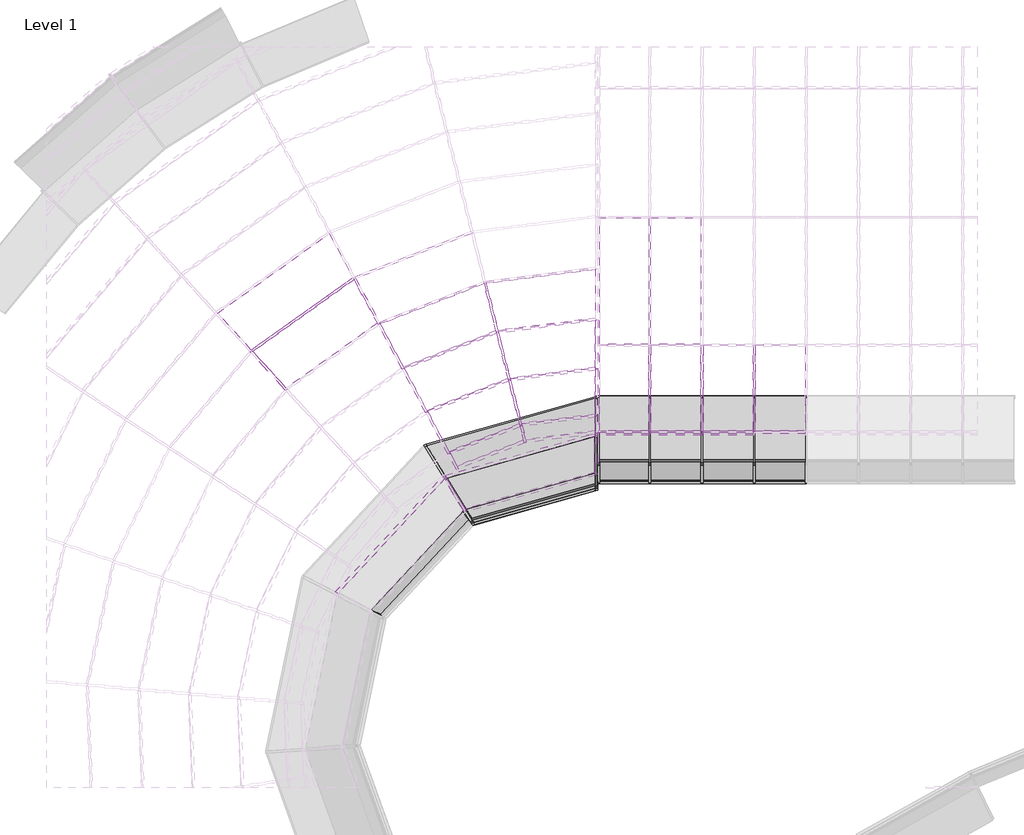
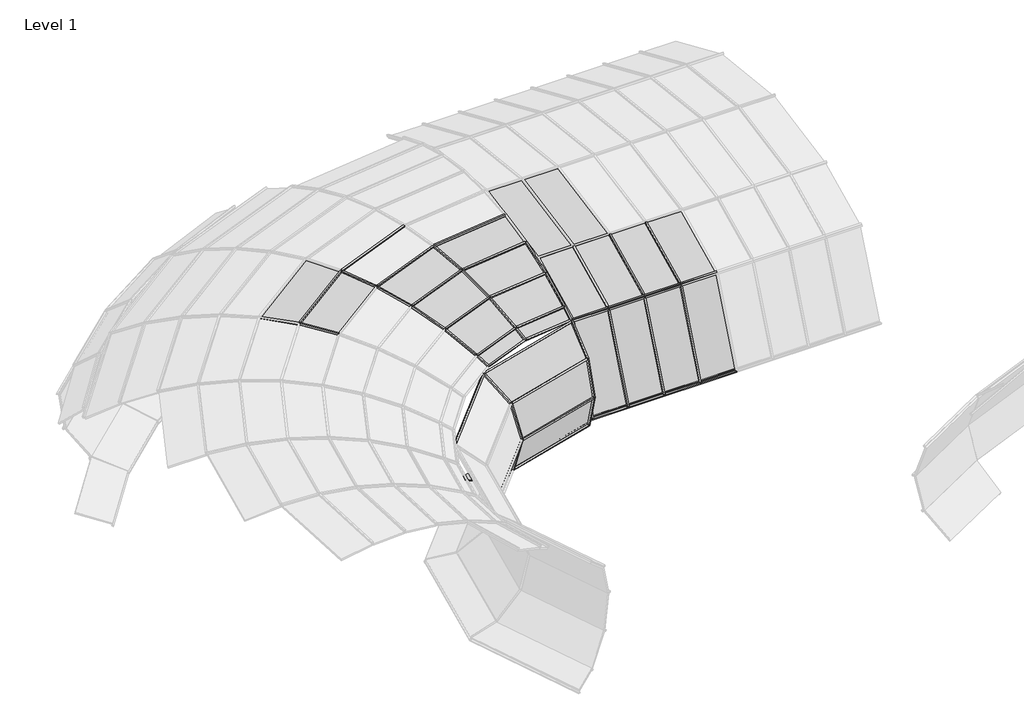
# One storey, part 15 of 23: 68 members, 30 plates.
"""IFC4 building model written with IfcOpenShell, lengths in millimetres."""

from ifc_helpers import new_model, si_unit, origin, place, context, project, spatial, transform, mapped, element, save
from components import member_c876edb5, member_40c6cd9d, member_782630c7, member_c2ddcf79, member_398e5ff5, member_398607d0, member_5099ef51, member_5ccaa950, member_a32a9cac, member_ff149431, member_8174f0e4, member_f9960f3d, member_231912ba, member_602ccce8, member_4609ab2d, member_513a4f72, member_c8b9029b, member_4f4d7b95, member_68981e21, member_3e1f1dd8, member_0cd36c09, member_d0a40a1c, member_ff9adfd2, member_8c9da58c, member_391bee44, member_01ebdf2a, member_d6b8231b, member_0f8f75f6, member_42213d33, member_14e241b9, member_5f010dbd, member_0934fb4d, member_48ec9f95, member_a14fa40f, member_7b8779ad, member_ae0b3619, member_4a9ed0f7, member_e2c9c6a0, member_25f397f4, member_9fdc8c74, system_panel_glazed_4989902e, system_panel_glazed_6854fac0, system_panel_glazed_c0d17033, system_panel_glazed_fa19e975, system_panel_glazed_51f493bd, system_panel_glazed_6e806f8e, system_panel_glazed_a1f64e1d, system_panel_glazed_6ab21abb, system_panel_glazed_3957fabc, system_panel_glazed_7bf4cd1b, system_panel_glazed_9f229a92, system_panel_glazed_17b64d9f, system_panel_glazed_a07c5774, system_panel_glazed_af8a38da, system_panel_glazed_4fd85c75, system_panel_glazed_840234e5, system_panel_glazed_1256fb3b, system_panel_glazed_5d54433e, system_panel_glazed_de823024, system_panel_glazed_a11d2942, system_panel_glazed_66eabb40, system_panel_glazed_688557e5, system_panel_glazed_15cacd98, system_panel_glazed_2b717ddf

model = new_model("IFC4")

# Units and contexts
model_context = context("Model", 3, world=origin())
ifc_project = project(units=[si_unit("LENGTHUNIT", "METRE", prefix="MILLI")], contexts=[model_context])

# Site, building, storey
site = spatial("IfcSite", under=ifc_project)
building = spatial("IfcBuilding", under=site)
storey = spatial("IfcBuildingStorey", under=building, Name="Level 1", Elevation=0.0)

# Members
placement = place(None, origin())
member_shape = member_c876edb5(model_context)
element("IfcMember", 1, ObjectType="Rectangular Mullion : 1\" Square", at=placement, inside=storey, context=model_context, shape_type="MappedRepresentation", body=[
    mapped(member_shape, transform((-12174.6051838, 2868.8876904, 2676.0506073), x_axis=(0.34938601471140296, -0.8972882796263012, -0.26982059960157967), y_axis=(0.09790269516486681, -0.2514323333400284, 0.962910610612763), z_axis=(-0.9318500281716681, -0.3628436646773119, 0.0))),
])
member_2_shape = member_40c6cd9d(model_context)
element("IfcMember", 2, ObjectType="Rectangular Mullion : 1\" Square", at=placement, inside=storey, context=model_context, shape_type="MappedRepresentation", body=[
    mapped(member_2_shape, transform((-10931.7449467, 2736.2969259, 2475.91846), x_axis=(0.11409837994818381, -0.9171267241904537, -0.3819163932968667), y_axis=(0.04715017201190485, -0.37899471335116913, 0.9241968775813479), z_axis=(-0.9923499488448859, -0.12345679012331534, 0.0))),
])
member_3_shape = member_782630c7(model_context)
element("IfcMember", 3, ObjectType="Rectangular Mullion : 1\" Square", at=placement, inside=storey, context=model_context, shape_type="MappedRepresentation", body=[
    mapped(member_3_shape, transform((-11901.0305804, 2362.2159821, 2475.91846), x_axis=(0.3353389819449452, -0.8612128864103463, -0.3819163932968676), y_axis=(0.13857594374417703, -0.35588880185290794, 0.9241968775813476), z_axis=(-0.9318500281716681, -0.362843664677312, 0.0))),
])
member_4_shape = member_c2ddcf79(model_context)
element("IfcMember", 4, ObjectType="Rectangular Mullion : 1\" Square", at=placement, inside=storey, context=model_context, shape_type="MappedRepresentation", body=[
    mapped(member_4_shape, transform((-10797.4988883, 2205.1103725, 2208.6526723), x_axis=(0.10770495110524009, -0.8657361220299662, -0.48877460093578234), y_axis=(0.060342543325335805, -0.48503545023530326, 0.8724101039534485), z_axis=(-0.9923499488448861, -0.12345679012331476, 0.0))),
])
member_5_shape = member_398e5ff5(model_context)
element("IfcMember", 5, ObjectType="Rectangular Mullion : 1\" Square", at=placement, inside=storey, context=model_context, shape_type="MappedRepresentation", body=[
    mapped(member_5_shape, transform((-11640.7229512, 1880.1152697, 2208.6526723), x_axis=(0.31654847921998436, -0.8129553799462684, -0.4887746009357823), y_axis=(0.17734876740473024, -0.4554646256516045, 0.8724101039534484), z_axis=(-0.9318500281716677, -0.3628436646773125, 0.0))),
])
member_6_shape = member_398607d0(model_context)
element("IfcMember", 6, ObjectType="Rectangular Mullion : 1\" Square", at=placement, inside=storey, context=model_context, shape_type="MappedRepresentation", body=[
    mapped(member_6_shape, transform((-12745.8541056, 3926.8647965, 2864.5209769), x_axis=(0.3626062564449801, -0.9312403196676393, -0.03616863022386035), y_axis=(0.013123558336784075, -0.0337037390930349, 0.9993457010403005), z_axis=(-0.9318500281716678, -0.362843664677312, 0.0))),
])
element("IfcMember", 7, ObjectType="Rectangular Mullion : 1\" Square", at=placement, inside=storey, context=model_context, shape_type="MappedRepresentation", body=[
    mapped(member_6_shape, transform((-13951.5584731, 3071.9900702, 2864.5209769), x_axis=(0.5797297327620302, -0.8140056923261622, -0.03616863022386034), y_axis=(0.020981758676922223, -0.029460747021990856, 0.9993457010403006), z_axis=(-0.8145386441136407, -0.580109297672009, 0.0))),
])
member_7_shape = member_5099ef51(model_context)
element("IfcMember", 8, ObjectType="Rectangular Mullion : 1\" Square", at=placement, inside=storey, context=model_context, shape_type="MappedRepresentation", body=[
    mapped(member_7_shape, transform((-11218.7560629, 3871.9462509, 2806.2019711), x_axis=(0.12198324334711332, -0.9805055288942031, -0.15404218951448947), y_axis=(0.019017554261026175, -0.1528637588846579, 0.9880642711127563), z_axis=(-0.9923499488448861, -0.12345679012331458, 0.0))),
])
member_8_shape = member_5ccaa950(model_context)
element("IfcMember", 9, ObjectType="Rectangular Mullion : 1\" Square", at=placement, inside=storey, context=model_context, shape_type="MappedRepresentation", body=[
    mapped(member_8_shape, transform((-12457.5548024, 3392.9223227, 2806.2019711), x_axis=(0.35851286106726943, -0.9207277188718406, -0.15404218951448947), y_axis=(0.05589323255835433, -0.14354421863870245, 0.9880642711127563), z_axis=(-0.9318500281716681, -0.3628436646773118, 0.0))),
])
member_9_shape = member_a32a9cac(model_context)
element("IfcMember", 10, ObjectType="Rectangular Mullion : 1\" Square", at=placement, inside=storey, context=model_context, shape_type="MappedRepresentation", body=[
    mapped(member_9_shape, transform((-11072.8330596, 3294.5562098, 2676.0506073), x_axis=(0.11887785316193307, -0.9555442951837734, -0.26982059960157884), y_axis=(0.03331118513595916, -0.2677564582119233, 0.9629106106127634), z_axis=(-0.9923499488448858, -0.12345679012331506, 0.0))),
])
member_10_shape = member_ff149431(model_context)
element("IfcMember", 11, ObjectType="Rectangular Mullion : 1\" Square", at=placement, inside=storey, context=model_context, shape_type="MappedRepresentation", body=[
    mapped(member_10_shape, transform((-10746.8652958, 2004.7627139, 2085.6089632), x_axis=(0.10586239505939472, -0.8509255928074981, -0.5145082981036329), y_axis=(0.06351954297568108, -0.5105722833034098, 0.8574853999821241), z_axis=(-0.9923499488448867, -0.12345679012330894, 0.0))),
])
member_11_shape = member_8174f0e4(model_context)
element("IfcMember", 12, ObjectType="Rectangular Mullion : 1\" Square", at=placement, inside=storey, context=model_context, shape_type="MappedRepresentation", body=[
    mapped(member_11_shape, transform((-11542.5427099, 1698.2813201, 2085.6089632), x_axis=(0.3111331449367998, -0.7990477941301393, -0.5145082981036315), y_axis=(0.18668607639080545, -0.47944457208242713, 0.8574853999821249), z_axis=(-0.9318500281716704, -0.362843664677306, 0.0))),
])
member_12_shape = member_f9960f3d(model_context)
element("IfcMember", 13, ObjectType="Rectangular Mullion : 1\" Square", at=placement, inside=storey, context=model_context, shape_type="MappedRepresentation", body=[
    mapped(member_12_shape, transform((-11356.5599234, 1047.8979662, 1116.1918244), x_axis=(0.007390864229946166, -0.026347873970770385, -0.9996255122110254), y_axis=(0.26998484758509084, -0.962475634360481, 0.02736485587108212), z_axis=(-0.9628362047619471, -0.27008599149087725, 0.0))),
])
member_13_shape = member_231912ba(model_context)
element("IfcMember", 14, ObjectType="Rectangular Mullion : 1\" Square", at=placement, inside=storey, context=model_context, shape_type="MappedRepresentation", body=[
    mapped(member_13_shape, transform((-11921.9234749, 1976.3418904, 0.0), x_axis=(-0.2624096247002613, 0.9354705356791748, -0.23671938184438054), y_axis=(0.0639345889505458, -0.2279219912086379, -0.9715780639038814), z_axis=(-0.9628362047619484, -0.27008599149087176, 0.0))),
])
member_14_shape = member_602ccce8(model_context)
element("IfcMember", 15, ObjectType="Rectangular Mullion : 1\" Square", at=placement, inside=storey, context=model_context, shape_type="MappedRepresentation", body=[
    mapped(member_14_shape, transform((-11437.3436732, 1180.5615973, 526.7119632), x_axis=(-0.1426560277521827, 0.5085579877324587, -0.8491278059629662), y_axis=(0.22933752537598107, -0.8175709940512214, -0.5281874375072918), z_axis=(-0.962836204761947, -0.27008599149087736, 0.0))),
])
member_15_shape = member_4609ab2d(model_context)
element("IfcMember", 16, ObjectType="Rectangular Mullion : 1\" Square", at=placement, inside=storey, context=model_context, shape_type="MappedRepresentation", body=[
    mapped(member_15_shape, transform((-11670.4149391, 1563.312838, 113.4427618), x_axis=(-0.24330787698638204, 0.8673742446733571, -0.4341234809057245), y_axis=(0.11725067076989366, -0.4179898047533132, -0.9008533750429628), z_axis=(-0.962836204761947, -0.27008599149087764, 0.0))),
])
member_16_shape = member_513a4f72(model_context)
element("IfcMember", 17, ObjectType="Rectangular Mullion : 1\" Square", at=placement, inside=storey, context=model_context, shape_type="MappedRepresentation", body=[
    mapped(member_16_shape, transform((-11453.4513691, 1207.0137667, 1696.6281859), x_axis=(0.1547369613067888, -0.5516256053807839, -0.8196131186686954), y_axis=(0.2213660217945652, -0.78915318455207, 0.572917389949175), z_axis=(-0.9628362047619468, -0.27008599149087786, 0.0))),
])
member_17_shape = member_c8b9029b(model_context)
element("IfcMember", 18, ObjectType="Rectangular Mullion : 1\" Square", at=placement, inside=storey, context=model_context, shape_type="MappedRepresentation", body=[
    mapped(member_17_shape, transform((-11718.4562886, 1595.1846124, 2085.6089632), x_axis=(-0.5543774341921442, 0.5168178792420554, 0.652353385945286), y_axis=(0.47716435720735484, -0.4448360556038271, 0.7579149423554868), z_axis=(0.6818943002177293, 0.7314507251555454, 0.0))),
])
member_18_shape = member_4f4d7b95(model_context)
element("IfcMember", 19, ObjectType="Rectangular Mullion : 1\" Square", at=placement, inside=storey, context=model_context, shape_type="MappedRepresentation", body=[
    mapped(member_18_shape, transform((-9937.406021, 2101.6487012, 2085.6089632), x_axis=(-0.2047022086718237, 0.7297479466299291, 0.652353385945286), y_axis=(0.17619151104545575, -0.628109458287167, 0.7579149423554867), z_axis=(0.9628362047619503, 0.2700859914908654, 0.0))),
])
member_19_shape = member_68981e21(model_context)
element("IfcMember", 20, ObjectType="Rectangular Mullion : 1\" Square", at=placement, inside=storey, context=model_context, shape_type="MappedRepresentation", body=[
    mapped(member_19_shape, transform((-9303.3499814, 2539.8807303, 0.0), x_axis=(0.0, 0.8307182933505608, -0.5566930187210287), y_axis=(0.0, -0.5566930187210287, -0.8307182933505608), z_axis=(-1.0, 0.0, 0.0))),
])
element("IfcMember", 21, ObjectType="Rectangular Mullion : 1\" Square", at=placement, inside=storey, context=model_context, shape_type="MappedRepresentation", body=[
    mapped(member_19_shape, transform((-8693.7499814, 2539.8807303, 0.0), x_axis=(0.0, 0.8307182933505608, -0.5566930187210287), y_axis=(0.0, -0.5566930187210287, -0.8307182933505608), z_axis=(-1.0, 0.0, 0.0))),
])
element("IfcMember", 22, ObjectType="Rectangular Mullion : 1\" Square", at=placement, inside=storey, context=model_context, shape_type="MappedRepresentation", body=[
    mapped(member_19_shape, transform((-8084.1499814, 2539.8807303, 0.0), x_axis=(0.0, 0.8307182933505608, -0.5566930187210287), y_axis=(0.0, -0.5566930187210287, -0.8307182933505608), z_axis=(-1.0, 0.0, 0.0))),
])
element("IfcMember", 23, ObjectType="Rectangular Mullion : 1\" Square", at=placement, inside=storey, context=model_context, shape_type="MappedRepresentation", body=[
    mapped(member_19_shape, transform((-9303.3499814, 2108.5088854, 2085.6089632), x_axis=(0.0, -0.9009025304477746, -0.4340214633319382), y_axis=(0.0, -0.4340214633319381, 0.9009025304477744), z_axis=(-1.0, 0.0, 0.0))),
])
element("IfcMember", 24, ObjectType="Rectangular Mullion : 1\" Square", at=placement, inside=storey, context=model_context, shape_type="MappedRepresentation", body=[
    mapped(member_19_shape, transform((-8693.7499814, 2108.5088854, 2085.6089632), x_axis=(0.0, -0.9009025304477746, -0.4340214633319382), y_axis=(0.0, -0.4340214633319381, 0.9009025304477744), z_axis=(-1.0, 0.0, 0.0))),
])
element("IfcMember", 25, ObjectType="Rectangular Mullion : 1\" Square", at=placement, inside=storey, context=model_context, shape_type="MappedRepresentation", body=[
    mapped(member_19_shape, transform((-8084.1499814, 2108.5088854, 2085.6089632), x_axis=(0.0, -0.9009025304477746, -0.4340214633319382), y_axis=(0.0, -0.4340214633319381, 0.9009025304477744), z_axis=(-1.0, 0.0, 0.0))),
])
member_20_shape = member_3e1f1dd8(model_context)
element("IfcMember", 26, ObjectType="Rectangular Mullion : 1\" Square", at=placement, inside=storey, context=model_context, shape_type="MappedRepresentation", body=[
    mapped(member_20_shape, transform((-9303.3499814, 1534.1192339, 673.9955146), x_axis=(0.0, 0.38018576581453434, -0.9249101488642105), y_axis=(0.0, -0.9249101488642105, -0.38018576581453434), z_axis=(-1.0, 0.0, 0.0))),
])
element("IfcMember", 27, ObjectType="Rectangular Mullion : 1\" Square", at=placement, inside=storey, context=model_context, shape_type="MappedRepresentation", body=[
    mapped(member_20_shape, transform((-8693.7499814, 1534.1192339, 673.9955146), x_axis=(0.0, 0.38018576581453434, -0.9249101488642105), y_axis=(0.0, -0.9249101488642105, -0.38018576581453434), z_axis=(-1.0, 0.0, 0.0))),
])
element("IfcMember", 28, ObjectType="Rectangular Mullion : 1\" Square", at=placement, inside=storey, context=model_context, shape_type="MappedRepresentation", body=[
    mapped(member_20_shape, transform((-8084.1499814, 1534.1192339, 673.9955146), x_axis=(0.0, 0.38018576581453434, -0.9249101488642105), y_axis=(0.0, -0.9249101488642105, -0.38018576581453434), z_axis=(-1.0, 0.0, 0.0))),
])
element("IfcMember", 29, ObjectType="Rectangular Mullion : 1\" Square", at=placement, inside=storey, context=model_context, shape_type="MappedRepresentation", body=[
    mapped(member_20_shape, transform((-9912.9499814, 1534.1192339, 673.9955146), x_axis=(0.0, 0.38018576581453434, -0.9249101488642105), y_axis=(0.0, -0.9249101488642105, -0.38018576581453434), z_axis=(-1.0, 0.0, 0.0))),
])
element("IfcMember", 30, ObjectType="Rectangular Mullion : 1\" Square", at=placement, inside=storey, context=model_context, shape_type="MappedRepresentation", body=[
    mapped(member_19_shape, transform((-9912.9499814, 2539.8807303, 0.0), x_axis=(0.0, 0.8307182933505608, -0.5566930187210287), y_axis=(0.0, -0.5566930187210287, -0.8307182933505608), z_axis=(-1.0, 0.0, 0.0))),
])
element("IfcMember", 31, ObjectType="Rectangular Mullion : 1\" Square", at=placement, inside=storey, context=model_context, shape_type="MappedRepresentation", body=[
    mapped(member_19_shape, transform((-9912.9499814, 2108.5088854, 2085.6089632), x_axis=(0.0, -0.9009025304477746, -0.4340214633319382), y_axis=(0.0, -0.4340214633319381, 0.9009025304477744), z_axis=(-1.0, 0.0, 0.0))),
])
element("IfcMember", 32, ObjectType="Rectangular Mullion : 1\" Square", at=placement, inside=storey, context=model_context, shape_type="MappedRepresentation", body=[
    mapped(member_19_shape, transform((-8693.7499814, 2108.5088854, 2085.6089632), x_axis=(0.0, 0.37689609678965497, 0.9262555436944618), y_axis=(0.0, -0.9262555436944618, 0.37689609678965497), z_axis=(1.0, 0.0, 0.0))),
])
element("IfcMember", 33, ObjectType="Rectangular Mullion : 1\" Square", at=placement, inside=storey, context=model_context, shape_type="MappedRepresentation", body=[
    mapped(member_19_shape, transform((-8084.1499814, 2108.5088854, 2085.6089632), x_axis=(0.0, 0.37689609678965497, 0.9262555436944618), y_axis=(0.0, -0.9262555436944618, 0.37689609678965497), z_axis=(1.0, 0.0, 0.0))),
])
element("IfcMember", 34, ObjectType="Rectangular Mullion : 1\" Square", at=placement, inside=storey, context=model_context, shape_type="MappedRepresentation", body=[
    mapped(member_19_shape, transform((-9303.3499814, 2108.5088854, 2085.6089632), x_axis=(0.0, 0.3768960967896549, 0.9262555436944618), y_axis=(0.0, -0.9262555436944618, 0.3768960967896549), z_axis=(1.0, 0.0, 0.0))),
])
member_21_shape = member_0cd36c09(model_context)
element("IfcMember", 35, ObjectType="Rectangular Mullion : 1\" Square", at=placement, inside=storey, context=model_context, shape_type="MappedRepresentation", body=[
    mapped(member_21_shape, transform((-11231.3589072, 3870.3783497, 2806.2019711), x_axis=(-0.9695168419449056, -0.24502467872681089, 0.0), y_axis=(0.052313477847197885, -0.20699465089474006, 0.9769424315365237), z_axis=(-0.2393750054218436, 0.9471621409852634, 0.21350289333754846))),
])
element("IfcMember", 36, ObjectType="Rectangular Mullion : 1\" Square", at=placement, inside=storey, context=model_context, shape_type="MappedRepresentation", body=[
    mapped(member_21_shape, transform((-11085.4359039, 3292.9883085, 2676.0506073), x_axis=(-0.9695168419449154, -0.2450246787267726, 0.0), y_axis=(0.08044178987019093, -0.3182931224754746, 0.9445732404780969), z_axis=(-0.23144375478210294, 0.9157796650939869, 0.32830076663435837))),
])
element("IfcMember", 37, ObjectType="Rectangular Mullion : 1\" Square", at=placement, inside=storey, context=model_context, shape_type="MappedRepresentation", body=[
    mapped(member_21_shape, transform((-12757.688601, 3922.2566819, 2864.5209769), x_axis=(-0.8799258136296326, -0.4751111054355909, 0.0), y_axis=(0.04545276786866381, -0.08418044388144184, 0.9954133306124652), z_axis=(-0.4729319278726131, 0.8758898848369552, 0.09566766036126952))),
])
element("IfcMember", 38, ObjectType="Rectangular Mullion : 1\" Square", at=placement, inside=storey, context=model_context, shape_type="MappedRepresentation", body=[
    mapped(member_21_shape, transform((-12469.3892978, 3388.3142081, 2806.2019711), x_axis=(-0.87992581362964, -0.4751111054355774, 0.0), y_axis=(0.10143759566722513, -0.1878667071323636, 0.9769424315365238), z_axis=(-0.46415619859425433, 0.8596368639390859, 0.21350289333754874))),
])
element("IfcMember", 39, ObjectType="Rectangular Mullion : 1\" Square", at=placement, inside=storey, context=model_context, shape_type="MappedRepresentation", body=[
    mapped(member_21_shape, transform((-12186.4396791, 2864.2795759, 2676.0506073), x_axis=(-0.879925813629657, -0.47511110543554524, 0.0), y_axis=(0.1559793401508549, -0.28888031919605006, 0.9445732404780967), z_axis=(-0.4487772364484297, 0.8311543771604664, 0.32830076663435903))),
])
element("IfcMember", 40, ObjectType="Rectangular Mullion : 1\" Square", at=placement, inside=storey, context=model_context, shape_type="MappedRepresentation", body=[
    mapped(member_21_shape, transform((-13961.9031139, 3064.6226821, 2864.5209769), x_axis=(-0.7366889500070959, -0.6762317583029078, 0.0), y_axis=(0.0646935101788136, -0.07047730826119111, 0.9954133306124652), z_axis=(-0.6731301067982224, 0.7333100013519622, 0.09566766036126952))),
])
member_22_shape = member_d0a40a1c(model_context)
element("IfcMember", 41, ObjectType="Rectangular Mullion : 1\" Square", at=placement, inside=storey, context=model_context, shape_type="MappedRepresentation", body=[
    mapped(member_22_shape, transform((-10944.347791, 2734.7290247, 2475.91846), x_axis=(-0.9695168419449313, -0.24502467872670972, 0.0), y_axis=(0.10742571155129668, -0.4250634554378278, 0.8987662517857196), z_axis=(-0.22021991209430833, 0.8713690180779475, 0.43842812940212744))),
])
element("IfcMember", 42, ObjectType="Rectangular Mullion : 1\" Square", at=placement, inside=storey, context=model_context, shape_type="MappedRepresentation", body=[
    mapped(member_22_shape, transform((-11912.8650758, 2357.6078676, 2475.91846), x_axis=(-0.8799258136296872, -0.47511110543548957, 0.0), y_axis=(0.2083020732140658, -0.38578422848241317, 0.8987662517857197), z_axis=(-0.42701382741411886, 0.7908476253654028, 0.4384281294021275))),
])
member_23_shape = member_ff9adfd2(model_context)
element("IfcMember", 43, ObjectType="Rectangular Mullion : 1\" Square", at=placement, inside=storey, context=model_context, shape_type="MappedRepresentation", body=[
    mapped(member_23_shape, transform((-10810.1017326, 2203.5424713, 2208.6526723), x_axis=(-0.9695168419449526, -0.2450246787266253, 0.0), y_axis=(0.1253559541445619, -0.49601007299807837, 0.8592205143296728), z_axis=(-0.21053023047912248, 0.8330287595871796, 0.5116054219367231))),
])
element("IfcMember", 44, ObjectType="Rectangular Mullion : 1\" Square", at=placement, inside=storey, context=model_context, shape_type="MappedRepresentation", body=[
    mapped(member_23_shape, transform((-11652.5574466, 1875.5071551, 2208.6526723), x_axis=(-0.8799258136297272, -0.47511110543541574, 0.0), y_axis=(0.24306941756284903, -0.45017481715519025, 0.8592205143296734), z_axis=(-0.408225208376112, 0.7560503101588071, 0.5116054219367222))),
])
member_24_shape = member_8c9da58c(model_context)
element("IfcMember", 45, ObjectType="Rectangular Mullion : 1\" Square", at=placement, inside=storey, context=model_context, shape_type="MappedRepresentation", body=[
    mapped(member_24_shape, transform((-11465.6793889, 1203.5836746, 1696.6281859), x_axis=(-0.8541071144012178, -0.5200971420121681, 0.0), y_axis=(0.49521537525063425, -0.8132461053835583, 0.30560187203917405), z_axis=(-0.15894266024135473, 0.26101673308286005, 0.952159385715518))),
])
element("IfcMember", 46, ObjectType="Rectangular Mullion : 1\" Square", at=placement, inside=storey, context=model_context, shape_type="MappedRepresentation", body=[
    mapped(member_24_shape, transform((-11368.7879432, 1044.4678741, 1116.1918244), x_axis=(-0.8541071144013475, -0.5200971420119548, 0.0), y_axis=(0.5029310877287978, -0.8259169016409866, -0.25479715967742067), z_axis=(0.13251927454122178, -0.2176240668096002, 0.9669945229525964))),
])
member_25_shape = member_391bee44(model_context)
element("IfcMember", 47, ObjectType="Rectangular Mullion : 1\" Square", at=placement, inside=storey, context=model_context, shape_type="MappedRepresentation", body=[
    mapped(member_25_shape, transform((-11449.571693, 1177.1315052, 526.7119632), x_axis=(-0.8541071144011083, -0.5200971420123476, 0.0), y_axis=(0.3525920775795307, -0.5790291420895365, -0.7351218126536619), z_axis=(0.3823347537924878, -0.6278727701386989, 0.6779350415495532))),
])
member_26_shape = member_01ebdf2a(model_context)
element("IfcMember", 48, ObjectType="Rectangular Mullion : 1\" Square", at=placement, inside=storey, context=model_context, shape_type="MappedRepresentation", body=[
    mapped(member_26_shape, transform((-11682.6429589, 1559.8827459, 113.4427618), x_axis=(-0.85410711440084, -0.520097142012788, 0.0), y_axis=(0.11878459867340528, -0.19506888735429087, -0.9735698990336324), z_axis=(0.5063509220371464, -0.831532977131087, 0.22838925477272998))),
])
member_27_shape = member_d6b8231b(model_context)
element("IfcMember", 49, ObjectType="Rectangular Mullion : 1\" Square", at=placement, inside=storey, context=model_context, shape_type="MappedRepresentation", body=[
    mapped(member_27_shape, transform((-11709.796231, 1604.4740366, 2085.6089632), x_axis=(-0.8541071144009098, -0.5200971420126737, 0.0), y_axis=(0.331869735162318, -0.5449987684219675, 0.769960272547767), z_axis=(-0.400454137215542, 0.6576285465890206, 0.6380918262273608))),
])
member_28_shape = member_0f8f75f6(model_context)
element("IfcMember", 50, ObjectType="Rectangular Mullion : 1\" Square", at=placement, inside=storey, context=model_context, shape_type="MappedRepresentation", body=[
    mapped(member_28_shape, transform((-8693.7499814, 2518.7804857, 14.1400027), x_axis=(1.0, 0.0, 0.0), y_axis=(0.0, -0.5566930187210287, -0.8307182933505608), z_axis=(0.0, 0.8307182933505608, -0.5566930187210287))),
])
element("IfcMember", 51, ObjectType="Rectangular Mullion : 1\" Square", at=placement, inside=storey, context=model_context, shape_type="MappedRepresentation", body=[
    mapped(member_28_shape, transform((-9303.3499814, 2518.7804857, 14.1400027), x_axis=(1.0, 0.0, 0.0), y_axis=(0.0, -0.5566930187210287, -0.8307182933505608), z_axis=(0.0, 0.8307182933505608, -0.5566930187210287))),
])
element("IfcMember", 52, ObjectType="Rectangular Mullion : 1\" Square", at=placement, inside=storey, context=model_context, shape_type="MappedRepresentation", body=[
    mapped(member_28_shape, transform((-8084.1499814, 2518.7804857, 14.1400027), x_axis=(1.0, 0.0, 0.0), y_axis=(0.0, -0.5566930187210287, -0.8307182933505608), z_axis=(0.0, 0.8307182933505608, -0.5566930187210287))),
])
member_29_shape = member_42213d33(model_context)
element("IfcMember", 53, ObjectType="Rectangular Mullion : 1\" Square", at=placement, inside=storey, context=model_context, shape_type="MappedRepresentation", body=[
    mapped(member_29_shape, transform((-9303.3499814, 1538.9058143, 685.75896), x_axis=(1.0, 0.0, 0.0), y_axis=(0.0, -0.9262555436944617, 0.37689609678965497), z_axis=(0.0, -0.3768960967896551, -0.926255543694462))),
])
element("IfcMember", 54, ObjectType="Rectangular Mullion : 1\" Square", at=placement, inside=storey, context=model_context, shape_type="MappedRepresentation", body=[
    mapped(member_29_shape, transform((-8693.7499814, 1538.9058143, 685.75896), x_axis=(1.0, 0.0, 0.0), y_axis=(0.0, -0.926255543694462, 0.3768960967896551), z_axis=(0.0, -0.37689609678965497, -0.9262555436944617))),
])
element("IfcMember", 55, ObjectType="Rectangular Mullion : 1\" Square", at=placement, inside=storey, context=model_context, shape_type="MappedRepresentation", body=[
    mapped(member_29_shape, transform((-8084.1499814, 1538.9058143, 685.75896), x_axis=(1.0, 0.0, 0.0), y_axis=(0.0, -0.926255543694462, 0.3768960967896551), z_axis=(0.0, -0.37689609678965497, -0.9262555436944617))),
])
member_30_shape = member_14e241b9(model_context)
element("IfcMember", 56, ObjectType="Rectangular Mullion : 1\" Square", at=placement, inside=storey, context=model_context, shape_type="MappedRepresentation", body=[
    mapped(member_30_shape, transform((-9303.3499814, 2131.3918096, 2096.6331083), x_axis=(1.0, 0.0, 0.0), y_axis=(0.0, -0.4340214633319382, 0.9009025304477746), z_axis=(0.0, -0.9009025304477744, -0.4340214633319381))),
])
element("IfcMember", 57, ObjectType="Rectangular Mullion : 1\" Square", at=placement, inside=storey, context=model_context, shape_type="MappedRepresentation", body=[
    mapped(member_30_shape, transform((-8084.1499814, 2131.3918096, 2096.6331083), x_axis=(1.0, 0.0, 0.0), y_axis=(0.0, -0.4340214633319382, 0.9009025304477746), z_axis=(0.0, -0.9009025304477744, -0.4340214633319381))),
])
element("IfcMember", 58, ObjectType="Rectangular Mullion : 1\" Square", at=placement, inside=storey, context=model_context, shape_type="MappedRepresentation", body=[
    mapped(member_30_shape, transform((-8693.7499814, 2131.3918096, 2096.6331083), x_axis=(1.0, 0.0, 0.0), y_axis=(0.0, -0.4340214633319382, 0.9009025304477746), z_axis=(0.0, -0.9009025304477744, -0.4340214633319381))),
])
member_31_shape = member_5f010dbd(model_context)
element("IfcMember", 59, ObjectType="Rectangular Mullion : 1\" Square", at=placement, inside=storey, context=model_context, shape_type="MappedRepresentation", body=[
    mapped(member_31_shape, transform((-9912.9499814, 2863.0437014, 2475.91846), x_axis=(0.9991669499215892, 0.01339775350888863, -0.038547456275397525), y_axis=(0.040809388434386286, -0.3280272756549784, 0.9437863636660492), z_axis=(0.0, -0.9445732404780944, -0.3283007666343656))),
])
member_32_shape = member_0934fb4d(model_context)
element("IfcMember", 60, ObjectType="Rectangular Mullion : 1\" Square", at=placement, inside=storey, context=model_context, shape_type="MappedRepresentation", body=[
    mapped(member_32_shape, transform((-9912.9499814, 2315.1557944, 2208.6526723), x_axis=(0.9985157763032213, 0.023878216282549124, -0.0489497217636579), y_axis=(0.054463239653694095, -0.43777740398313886, 0.8974322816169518), z_axis=(0.0, -0.8987662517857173, -0.438428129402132))),
])
member_33_shape = member_48ec9f95(model_context)
element("IfcMember", 61, ObjectType="Rectangular Mullion : 1\" Square", at=placement, inside=storey, context=model_context, shape_type="MappedRepresentation", body=[
    mapped(member_33_shape, transform((-9912.9499814, 2108.5088854, 2085.6089632), x_axis=(0.9979805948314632, 0.03249694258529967, -0.05457729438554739), y_axis=(0.06351954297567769, -0.5105722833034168, 0.85748539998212), z_axis=(0.0, -0.8592205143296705, -0.5116054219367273))),
])
member_34_shape = member_a14fa40f(model_context)
element("IfcMember", 62, ObjectType="Rectangular Mullion : 1\" Square", at=placement, inside=storey, context=model_context, shape_type="MappedRepresentation", body=[
    mapped(member_34_shape, transform((-9912.9499814, 2539.8807303, 0.0), x_axis=(0.9979540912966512, 0.014601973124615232, 0.0622447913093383), y_axis=(0.06393458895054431, -0.22792199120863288, -0.9715780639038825), z_axis=(0.0, 0.9735698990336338, -0.22838925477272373))),
])
member_35_shape = member_7b8779ad(model_context)
element("IfcMember", 63, ObjectType="Rectangular Mullion : 1\" Square", at=placement, inside=storey, context=model_context, shape_type="MappedRepresentation", body=[
    mapped(member_35_shape, transform((-9912.9499814, 1639.1411032, 1696.6281859), x_axis=(0.9843559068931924, 0.11242636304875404, -0.13566046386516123), y_axis=(0.17619151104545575, -0.6281094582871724, 0.7579149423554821), z_axis=(0.0, -0.7699602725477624, -0.6380918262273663))),
])
member_36_shape = member_ae0b3619(model_context)
element("IfcMember", 64, ObjectType="Rectangular Mullion : 1\" Square", at=placement, inside=storey, context=model_context, shape_type="MappedRepresentation", body=[
    mapped(member_36_shape, transform((-9912.9499814, 1452.846202, 1116.1918244), x_axis=(0.9661327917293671, 0.24570035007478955, -0.07885915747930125), y_axis=(0.25804540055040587, -0.9199124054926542, 0.2952519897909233), z_axis=(0.0, -0.30560187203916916, -0.9521593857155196))),
])
member_37_shape = member_4a9ed0f7(model_context)
element("IfcMember", 65, ObjectType="Rectangular Mullion : 1\" Square", at=placement, inside=storey, context=model_context, shape_type="MappedRepresentation", body=[
    mapped(member_37_shape, transform((-9912.9499814, 1608.1705506, 526.7119632), x_axis=(0.9651242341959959, 0.25315172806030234, 0.06670393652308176), y_axis=(0.2617923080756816, -0.933269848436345, -0.2459109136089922), z_axis=(0.0, 0.2547971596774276, -0.9669945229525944))),
])
member_38_shape = member_e2c9c6a0(model_context)
element("IfcMember", 66, ObjectType="Rectangular Mullion : 1\" Square", at=placement, inside=storey, context=model_context, shape_type="MappedRepresentation", body=[
    mapped(member_38_shape, transform((-9912.9499814, 2056.3008076, 113.4427618), x_axis=(0.9823941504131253, 0.12665186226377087, 0.13733549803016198), y_axis=(0.18682005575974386, -0.665999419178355, -0.7221793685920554), z_axis=(0.0, 0.7351218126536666, -0.6779350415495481))),
])
member_39_shape = member_25f397f4(model_context)
element("IfcMember", 67, ObjectType="Rectangular Mullion : 1\" Square", at=placement, inside=storey, context=model_context, shape_type="MappedRepresentation", body=[
    mapped(member_39_shape, transform((-9912.9499814, 2098.9357245, 2062.0820723), x_axis=(-1.0, 0.0, 0.0), y_axis=(0.0, -0.9262555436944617, 0.37689609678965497), z_axis=(0.0, 0.3768960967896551, 0.926255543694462))),
])
member_40_shape = member_9fdc8c74(model_context)
element("IfcMember", 68, ObjectType="Rectangular Mullion : 1\" Square", at=placement, inside=storey, context=model_context, shape_type="MappedRepresentation", body=[
    mapped(member_40_shape, transform((-9912.9499814, 1544.6693562, 666.9255132), x_axis=(-1.0, 0.0, 0.0), y_axis=(0.0, -0.5566930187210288, -0.8307182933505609), z_axis=(0.0, -0.8307182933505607, 0.5566930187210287))),
])

# Plates
system_panel_glazed_shape = system_panel_glazed_4989902e(model_context)
element("IfcPlate", 69, ObjectType="System Panel : Glazed", at=placement, inside=storey, context=model_context, shape_type="MappedRepresentation", body=[
    mapped(system_panel_glazed_shape, transform((-9887.5499814, 1818.9207694, 1373.9205162), x_axis=(0.0, -0.3768960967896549, -0.9262555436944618), y_axis=(0.0, 0.9262555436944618, -0.3768960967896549), z_axis=(1.0, 0.0, 0.0))),
])
system_panel_glazed_2_shape = system_panel_glazed_6854fac0(model_context)
element("IfcPlate", 70, ObjectType="System Panel : Glazed", at=placement, inside=storey, context=model_context, shape_type="MappedRepresentation", body=[
    mapped(system_panel_glazed_2_shape, transform((-10812.4243301, 1836.2024852, 2069.0391872), x_axis=(-0.9628362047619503, -0.27008599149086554, 0.0), y_axis=(-0.17619151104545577, 0.628109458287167, -0.7579149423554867), z_axis=(0.20470220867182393, -0.7297479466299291, -0.6523533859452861))),
])
system_panel_glazed_3_shape = system_panel_glazed_c0d17033(model_context)
element("IfcPlate", 71, ObjectType="System Panel : Glazed", at=placement, inside=storey, context=model_context, shape_type="MappedRepresentation", body=[
    mapped(system_panel_glazed_3_shape, transform((-9887.5499814, 3882.992753, 2721.9985635), x_axis=(0.0, -0.9824415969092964, -0.18657038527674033), y_axis=(0.0, 0.18657038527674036, -0.9824415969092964), z_axis=(1.0, 0.0, 0.0))),
])
system_panel_glazed_4_shape = system_panel_glazed_fa19e975(model_context)
element("IfcPlate", 72, ObjectType="System Panel : Glazed", at=placement, inside=storey, context=model_context, shape_type="MappedRepresentation", body=[
    mapped(system_panel_glazed_4_shape, transform((-9887.5499814, 2627.1613018, 2335.4764828), x_axis=(0.0, -0.9009025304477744, -0.4340214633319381), y_axis=(0.0, 0.4340214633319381, -0.9009025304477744), z_axis=(1.0, 0.0, 0.0))),
])
system_panel_glazed_5_shape = system_panel_glazed_51f493bd(model_context)
element("IfcPlate", 73, ObjectType="System Panel : Glazed", at=placement, inside=storey, context=model_context, shape_type="MappedRepresentation", body=[
    mapped(system_panel_glazed_5_shape, transform((-9290.6499814, 1818.9207694, 1373.9205162), x_axis=(0.0, -0.37689609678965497, -0.9262555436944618), y_axis=(0.0, 0.9262555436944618, -0.37689609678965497), z_axis=(1.0, 0.0, 0.0))),
])
element("IfcPlate", 74, ObjectType="System Panel : Glazed", at=placement, inside=storey, context=model_context, shape_type="MappedRepresentation", body=[
    mapped(system_panel_glazed_5_shape, transform((-8681.0499814, 1818.9207694, 1373.9205162), x_axis=(0.0, -0.37689609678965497, -0.9262555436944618), y_axis=(0.0, 0.9262555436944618, -0.37689609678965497), z_axis=(1.0, 0.0, 0.0))),
])
element("IfcPlate", 75, ObjectType="System Panel : Glazed", at=placement, inside=storey, context=model_context, shape_type="MappedRepresentation", body=[
    mapped(system_panel_glazed_5_shape, transform((-8071.4499814, 1818.9207694, 1373.9205162), x_axis=(0.0, -0.37689609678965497, -0.9262555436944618), y_axis=(0.0, 0.9262555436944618, -0.37689609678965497), z_axis=(1.0, 0.0, 0.0))),
])
system_panel_glazed_6_shape = system_panel_glazed_6e806f8e(model_context)
element("IfcPlate", 76, ObjectType="System Panel : Glazed", at=placement, inside=storey, context=model_context, shape_type="MappedRepresentation", body=[
    mapped(system_panel_glazed_6_shape, transform((-9290.6499814, 3882.992753, 2721.9985635), x_axis=(0.0, -0.9824415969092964, -0.18657038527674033), y_axis=(0.0, 0.18657038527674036, -0.9824415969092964), z_axis=(1.0, 0.0, 0.0))),
])
system_panel_glazed_7_shape = system_panel_glazed_a1f64e1d(model_context)
element("IfcPlate", 77, ObjectType="System Panel : Glazed", at=placement, inside=storey, context=model_context, shape_type="MappedRepresentation", body=[
    mapped(system_panel_glazed_7_shape, transform((-9290.6499814, 2627.1613018, 2335.4764828), x_axis=(0.0, -0.9009025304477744, -0.4340214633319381), y_axis=(0.0, 0.4340214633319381, -0.9009025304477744), z_axis=(1.0, 0.0, 0.0))),
])
element("IfcPlate", 78, ObjectType="System Panel : Glazed", at=placement, inside=storey, context=model_context, shape_type="MappedRepresentation", body=[
    mapped(system_panel_glazed_7_shape, transform((-8681.0499814, 2627.1613018, 2335.4764828), x_axis=(0.0, -0.9009025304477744, -0.4340214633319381), y_axis=(0.0, 0.4340214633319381, -0.9009025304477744), z_axis=(1.0, 0.0, 0.0))),
])
element("IfcPlate", 79, ObjectType="System Panel : Glazed", at=placement, inside=storey, context=model_context, shape_type="MappedRepresentation", body=[
    mapped(system_panel_glazed_7_shape, transform((-8071.4499814, 2627.1613018, 2335.4764828), x_axis=(0.0, -0.9009025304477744, -0.4340214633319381), y_axis=(0.0, 0.4340214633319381, -0.9009025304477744), z_axis=(1.0, 0.0, 0.0))),
])
system_panel_glazed_8_shape = system_panel_glazed_6ab21abb(model_context)
element("IfcPlate", 80, ObjectType="System Panel : Glazed", at=placement, inside=storey, context=model_context, shape_type="MappedRepresentation", body=[
    mapped(system_panel_glazed_8_shape, transform((-9887.5499814, 2031.7249209, 340.532758), x_axis=(0.0, 0.8307182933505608, -0.5566930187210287), y_axis=(0.0, 0.5566930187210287, 0.8307182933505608), z_axis=(1.0, 0.0, 0.0))),
])
system_panel_glazed_9_shape = system_panel_glazed_3957fabc(model_context)
element("IfcPlate", 81, ObjectType="System Panel : Glazed", at=placement, inside=storey, context=model_context, shape_type="MappedRepresentation", body=[
    mapped(system_panel_glazed_9_shape, transform((-9290.6499814, 2031.7249209, 340.532758), x_axis=(0.0, 0.8307182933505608, -0.5566930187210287), y_axis=(0.0, 0.5566930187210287, 0.8307182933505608), z_axis=(1.0, 0.0, 0.0))),
])
element("IfcPlate", 82, ObjectType="System Panel : Glazed", at=placement, inside=storey, context=model_context, shape_type="MappedRepresentation", body=[
    mapped(system_panel_glazed_9_shape, transform((-8681.0499814, 2031.7249209, 340.532758), x_axis=(0.0, 0.8307182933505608, -0.5566930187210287), y_axis=(0.0, 0.5566930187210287, 0.8307182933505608), z_axis=(1.0, 0.0, 0.0))),
])
element("IfcPlate", 83, ObjectType="System Panel : Glazed", at=placement, inside=storey, context=model_context, shape_type="MappedRepresentation", body=[
    mapped(system_panel_glazed_9_shape, transform((-8071.4499814, 2031.7249209, 340.532758), x_axis=(0.0, 0.8307182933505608, -0.5566930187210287), y_axis=(0.0, 0.5566930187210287, 0.8307182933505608), z_axis=(1.0, 0.0, 0.0))),
])
system_panel_glazed_10_shape = system_panel_glazed_7bf4cd1b(model_context)
element("IfcPlate", 84, ObjectType="System Panel : Glazed", at=placement, inside=storey, context=model_context, shape_type="MappedRepresentation", body=[
    mapped(system_panel_glazed_10_shape, transform((-13703.2626958, 3975.7057204, 2850.4790751), x_axis=(-0.8145386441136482, -0.5801092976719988, 0.0), y_axis=(0.013754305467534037, -0.01931259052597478, -0.9997188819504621), z_axis=(0.5799462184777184, -0.8143096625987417, 0.023709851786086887))),
])
system_panel_glazed_11_shape = system_panel_glazed_9f229a92(model_context)
element("IfcPlate", 85, ObjectType="System Panel : Glazed", at=placement, inside=storey, context=model_context, shape_type="MappedRepresentation", body=[
    mapped(system_panel_glazed_11_shape, transform((-13352.4627805, 3483.1432179, 2863.296718), x_axis=(-0.8145386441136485, -0.5801092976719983, 0.0), y_axis=(-0.05592157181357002, 0.0785201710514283, -0.9953428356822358), z_axis=(0.577407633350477, -0.8107452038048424, -0.09639833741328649))),
])
system_panel_glazed_12_shape = system_panel_glazed_17b64d9f(model_context)
element("IfcPlate", 86, ObjectType="System Panel : Glazed", at=placement, inside=storey, context=model_context, shape_type="MappedRepresentation", body=[
    mapped(system_panel_glazed_12_shape, transform((-10576.9709963, 3939.2913744, 2803.4705448), x_axis=(-0.9923499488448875, -0.12345679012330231, 0.0), y_axis=(-0.026552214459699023, 0.21342761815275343, -0.9765979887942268), z_axis=(0.120567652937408, -0.969126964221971, -0.21507293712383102))),
])
system_panel_glazed_13_shape = system_panel_glazed_a07c5774(model_context)
element("IfcPlate", 87, ObjectType="System Panel : Glazed", at=placement, inside=storey, context=model_context, shape_type="MappedRepresentation", body=[
    mapped(system_panel_glazed_13_shape, transform((-11845.8738271, 3617.7887345, 2803.4705448), x_axis=(-0.9318500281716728, -0.36284366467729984, 0.0), y_axis=(-0.0780378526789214, 0.2004157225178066, -0.9765979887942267), z_axis=(0.3543523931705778, -0.9100428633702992, -0.21507293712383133))),
])
system_panel_glazed_14_shape = system_panel_glazed_af8a38da(model_context)
element("IfcPlate", 88, ObjectType="System Panel : Glazed", at=placement, inside=storey, context=model_context, shape_type="MappedRepresentation", body=[
    mapped(system_panel_glazed_14_shape, transform((-10504.057889, 3353.2382, 2671.8525455), x_axis=(-0.9923499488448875, -0.12345679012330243, 0.0), y_axis=(-0.04080938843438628, 0.32802727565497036, -0.9437863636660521), z_axis=(0.1165168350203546, -0.9365663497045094, -0.3305560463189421))),
])
system_panel_glazed_15_shape = system_panel_glazed_4fd85c75(model_context)
element("IfcPlate", 89, ObjectType="System Panel : Glazed", at=placement, inside=storey, context=model_context, shape_type="MappedRepresentation", body=[
    mapped(system_panel_glazed_15_shape, transform((-11631.5887159, 3067.4647069, 2671.8525455), x_axis=(-0.9318500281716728, -0.36284366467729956, 0.0), y_axis=(-0.11994016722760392, 0.3080286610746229, -0.9437863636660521), z_axis=(0.34244690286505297, -0.8794673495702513, -0.330556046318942))),
])
system_panel_glazed_16_shape = system_panel_glazed_840234e5(model_context)
element("IfcPlate", 90, ObjectType="System Panel : Glazed", at=placement, inside=storey, context=model_context, shape_type="MappedRepresentation", body=[
    mapped(system_panel_glazed_16_shape, transform((-10433.5823762, 2786.7873421, 2470.3158265), x_axis=(-0.9923499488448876, -0.12345679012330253, 0.0), y_axis=(-0.05446323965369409, 0.4377774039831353, -0.8974322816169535), z_axis=(0.11079410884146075, -0.8905668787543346, -0.44115224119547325))),
])
system_panel_glazed_17_shape = system_panel_glazed_1256fb3b(model_context)
element("IfcPlate", 91, ObjectType="System Panel : Glazed", at=placement, inside=storey, context=model_context, shape_type="MappedRepresentation", body=[
    mapped(system_panel_glazed_17_shape, transform((-11424.4709627, 2535.5477879, 2470.3158265), x_axis=(-0.9318500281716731, -0.3628436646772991, 0.0), y_axis=(-0.16006929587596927, 0.4110877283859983, -0.8974322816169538), z_axis=(0.3256276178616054, -0.836272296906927, -0.441152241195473))),
])
system_panel_glazed_18_shape = system_panel_glazed_5d54433e(model_context)
element("IfcPlate", 92, ObjectType="System Panel : Glazed", at=placement, inside=storey, context=model_context, shape_type="MappedRepresentation", body=[
    mapped(system_panel_glazed_18_shape, transform((-10366.5185814, 2247.753979, 2202.1184169), x_axis=(-0.9923499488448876, -0.12345679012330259, 0.0), y_axis=(-0.0635195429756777, 0.5105722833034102, -0.8574853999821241), z_axis=(0.1058623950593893, -0.8509255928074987, -0.5145082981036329))),
])
system_panel_glazed_19_shape = system_panel_glazed_de823024(model_context)
element("IfcPlate", 93, ObjectType="System Panel : Glazed", at=placement, inside=storey, context=model_context, shape_type="MappedRepresentation", body=[
    mapped(system_panel_glazed_19_shape, transform((-11227.3781987, 2029.3769062, 2202.1184169), x_axis=(-0.9318500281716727, -0.3628436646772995, 0.0), y_axis=(-0.18668607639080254, 0.47944457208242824, -0.8574853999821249), z_axis=(0.311133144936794, -0.7990477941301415, -0.5145082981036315))),
])
system_panel_glazed_20_shape = system_panel_glazed_a11d2942(model_context)
element("IfcPlate", 94, ObjectType="System Panel : Glazed", at=placement, inside=storey, context=model_context, shape_type="MappedRepresentation", body=[
    mapped(system_panel_glazed_20_shape, transform((-10694.4368869, 1416.0311236, 1684.4943593), x_axis=(-0.9628362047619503, -0.2700859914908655, 0.0), y_axis=(-0.2580454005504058, 0.919912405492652, -0.2952519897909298), z_axis=(0.07974342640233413, -0.284279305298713, -0.9554194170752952))),
])
system_panel_glazed_21_shape = system_panel_glazed_66eabb40(model_context)
element("IfcPlate", 95, ObjectType="System Panel : Glazed", at=placement, inside=storey, context=model_context, shape_type="MappedRepresentation", body=[
    mapped(system_panel_glazed_21_shape, transform((-10647.8409983, 1249.94492, 1103.8818104), x_axis=(-0.9628362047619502, -0.2700859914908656, 0.0), y_axis=(-0.2617923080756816, 0.9332698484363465, 0.24591091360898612), z_axis=(-0.06641709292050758, 0.23677193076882, -0.969292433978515))),
])
system_panel_glazed_22_shape = system_panel_glazed_688557e5(model_context)
element("IfcPlate", 96, ObjectType="System Panel : Glazed", at=placement, inside=storey, context=model_context, shape_type="MappedRepresentation", body=[
    mapped(system_panel_glazed_22_shape, transform((-11886.5948937, 493.6094775, 1103.8818104), x_axis=(-0.68189430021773, -0.7314507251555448, 0.0), y_axis=(-0.7089896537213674, 0.6609549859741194, 0.24591091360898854), z_axis=(-0.17987171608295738, 0.16768525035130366, -0.9692924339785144))),
])
system_panel_glazed_23_shape = system_panel_glazed_15cacd98(model_context)
element("IfcPlate", 97, ObjectType="System Panel : Glazed", at=placement, inside=storey, context=model_context, shape_type="MappedRepresentation", body=[
    mapped(system_panel_glazed_23_shape, transform((-10689.9761818, 1399.731968, 517.9272991), x_axis=(-0.9628362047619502, -0.2700859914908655, 0.0), y_axis=(-0.1868200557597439, 0.6659994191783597, 0.7221793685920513), z_axis=(-0.19505053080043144, 0.6953404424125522, -0.6917058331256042))),
])
system_panel_glazed_24_shape = system_panel_glazed_2b717ddf(model_context)
element("IfcPlate", 98, ObjectType="System Panel : Glazed", at=placement, inside=storey, context=model_context, shape_type="MappedRepresentation", body=[
    mapped(system_panel_glazed_24_shape, transform((-10807.4660809, 1818.194653, 110.4364257), x_axis=(-0.9628362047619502, -0.27008599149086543, 0.0), y_axis=(-0.06393458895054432, 0.22792199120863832, 0.9715780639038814), z_axis=(-0.2624096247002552, 0.9354705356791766, -0.23671938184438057))),
])

save(model, "model.ifc")
